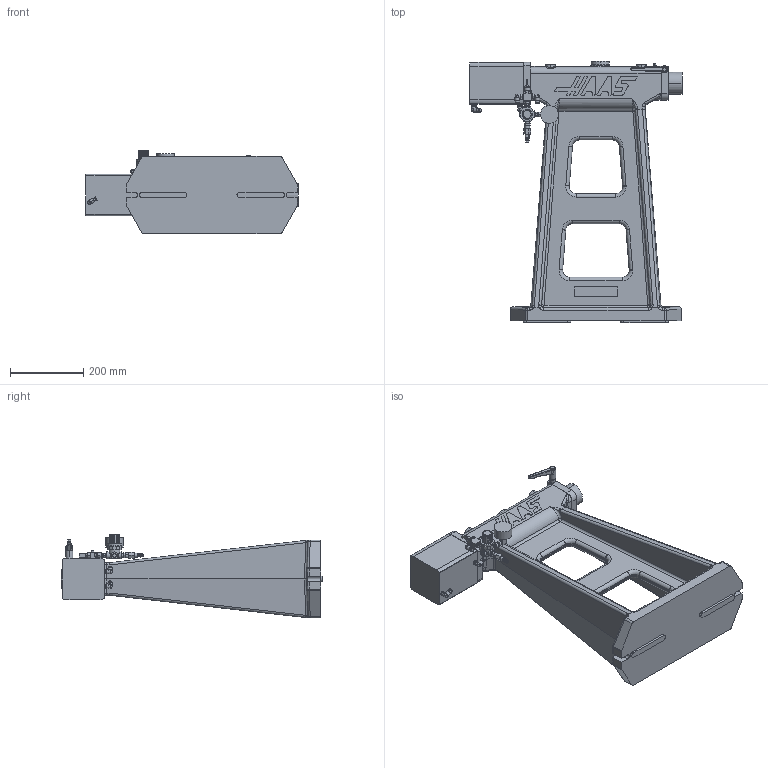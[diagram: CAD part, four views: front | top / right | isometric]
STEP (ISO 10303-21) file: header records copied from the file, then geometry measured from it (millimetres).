
FILE_DESCRIPTION (( 'STEP AP214' ), '1' );
FILE_NAME ('HPTS25.5_STEP_2020-03.STEP', '2020-04-02T16:27:46', ( '' ), ( '' ), 'SwSTEP 2.0', 'SolidWorks 2019', '' );
FILE_SCHEMA (( 'AUTOMOTIVE_DESIGN' ));
Length unit declared in the file: inch
Products named in the file (1): HPTS25.5_STEP_2020-03
Bounding box: 579.16 x 713.49 x 228.05 mm (x, y, z)
Volume: 15936403.9 mm3; surface area: 1053449.8 mm2
Topology: 2 solids, 2 shells, 1153 faces, 2940 edges, 1869 vertices
Faces by surface type: plane 547, cylinder 388, bspline 94, cone 62, torus 40, sphere 22
Entity records: 47704 total; most frequent: CARTESIAN_POINT 13311, ORIENTED_EDGE 5848, DIRECTION 5658, EDGE_CURVE 2924, AXIS2_PLACEMENT_3D 2018, VERTEX_POINT 1865, LINE 1622, VECTOR 1622
